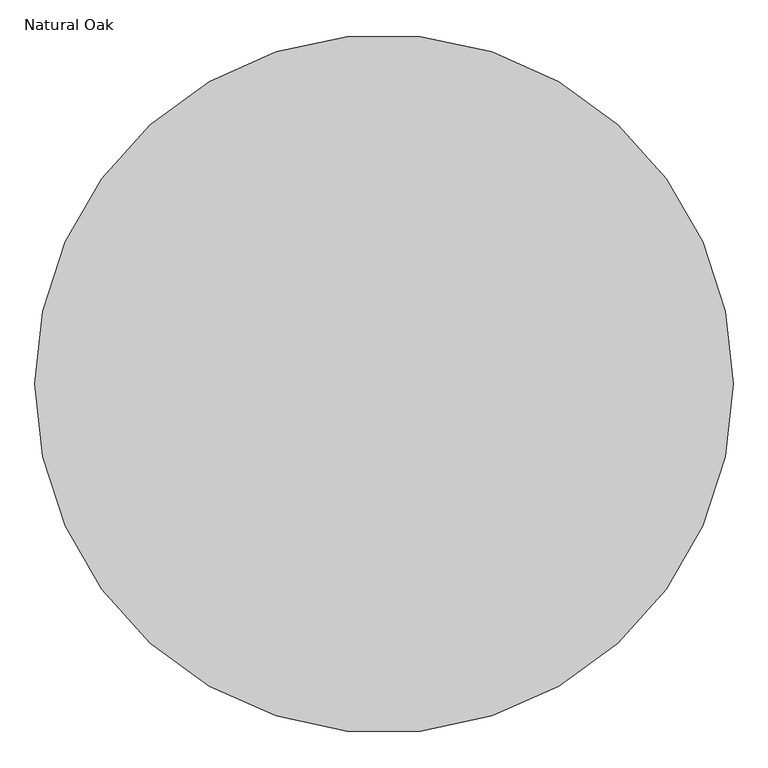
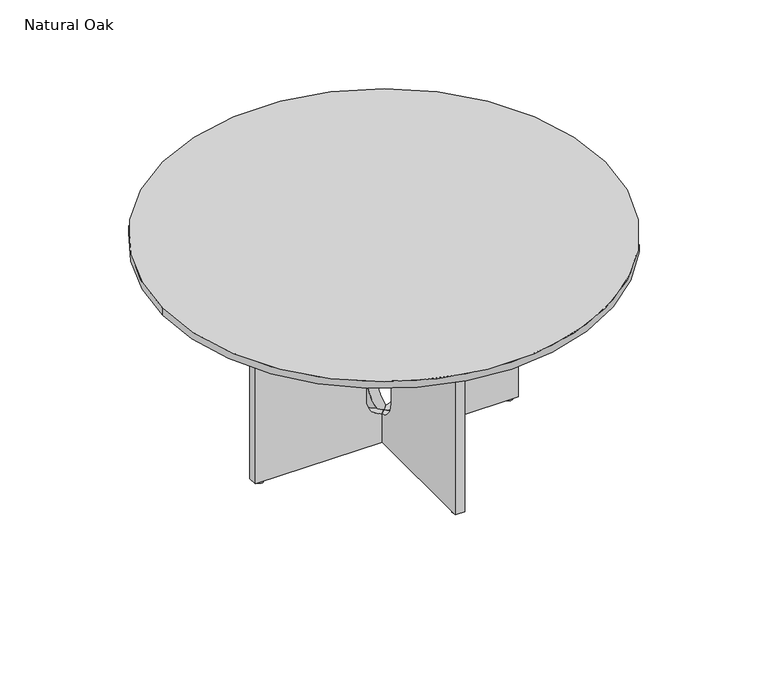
"""IFC4 building model written with IfcOpenShell, lengths in millimetres: furniture geometry, Audo Copenhagen - Androgyne - Dining Table Round - 150 : Natural Oak."""

from ifc_helpers import new_model, si_unit, point, frame, frame_2d, origin, origin_with_axes, origin_2d, place, context, project, spatial, polyline, circle_curve, ellipse_curve, trimmed, segment, composite_curve, outline, extrude, source, transform, mapped, element, save
from ifc_brep_helpers import plane_surface, revolved_surface, advanced_brep


def natural_oak_079cc0ae(model_context):
    return source(origin(), model_context, "Body", "SolidModel", [
        advanced_brep(
        [(70.0, -16.0, 177.0), (70.0, 16.0, 177.0), (16.0, 16.0, 108.8530999), (2.4e-06, 2.3e-06, 107.0), (16.0, -16.0, 108.8530999), (70.0, -16.0, 538.0), (70.0, 16.0, 538.0), (16.0, -16.0, 606.1469001), (2.4e-06, 2.3e-06, 608.0), (16.0, 16.0, 606.1469001), (445.0, -16.0, 708.0), (445.0, 16.0, 708.0), (16.0, 16.0, 708.0), (2.4e-06, 2.3e-06, 708.0), (16.0, -16.0, 708.0), (445.0, -16.0, 7.0), (16.0, -16.0, 7.0), (2.4e-06, 2.3e-06, 7.0), (16.0, 16.0, 7.0), (445.0, 16.0, 7.0)],
        [
            (0, 1),
            (1, 2, circle_curve(frame((0.0, 16.0, 177.0), z_axis=(0.0, 1.0, 0.0), x_axis=(-1.0, 0.0, 0.0)), 70.0)),
            (2, 3, ellipse_curve(frame((0.0, -2e-07, 177.0), z_axis=(-0.7071067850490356, 0.7071067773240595, 0.0), x_axis=(-0.7071067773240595, -0.7071067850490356, 0.0)), 98.9949499, 70.0)),
            (3, 4, ellipse_curve(frame((0.0, 4.7e-06, 177.0), z_axis=(-0.7071068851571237, -0.7071066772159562, 0.0), x_axis=(0.7071066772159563, -0.7071068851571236, 0.0)), 98.9949639, 70.0)),
            (4, 0, circle_curve(frame((0.0, -16.0, 177.0), z_axis=(0.0, -1.0, 0.0), x_axis=(-1.0, 0.0, 0.0)), 70.0)),
            (0, 5),
            (5, 6),
            (6, 1),
            (5, 7, circle_curve(frame((0.0, -16.0, 538.0), z_axis=(0.0, -1.0, 0.0), x_axis=(-1.0, 0.0, 0.0)), 70.0)),
            (7, 8, ellipse_curve(frame((0.0, 4.7e-06, 538.0), z_axis=(-0.7071068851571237, -0.7071066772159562, 0.0), x_axis=(0.7071066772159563, -0.7071068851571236, 0.0)), 98.9949639, 70.0)),
            (8, 9, ellipse_curve(frame((0.0, -2e-07, 538.0), z_axis=(-0.7071067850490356, 0.7071067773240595, 0.0), x_axis=(-0.7071067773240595, -0.7071067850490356, 0.0)), 98.9949499, 70.0)),
            (9, 6, circle_curve(frame((0.0, 16.0, 538.0), z_axis=(0.0, 1.0, 0.0), x_axis=(-1.0, 0.0, 0.0)), 70.0)),
            (10, 11),
            (11, 12),
            (12, 13),
            (13, 14),
            (14, 10),
            (15, 16),
            (16, 17),
            (17, 18),
            (18, 19),
            (19, 15),
            (14, 7),
            (4, 16),
            (15, 10),
            (11, 19),
            (18, 2),
            (9, 12),
            (13, 8),
            (3, 17),
        ],
        [
            revolved_surface(polyline([(-70.0, -70.00001586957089, 177.0), (-70.0, 70.0000252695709, 177.0)]), (0.0, 16.0, 177.0), (0.0, -1.0, 0.0)),
            plane_surface(frame((70.0, -16.0, 177.0), z_axis=(-1.0, 0.0, 0.0), x_axis=(0.0, 1.0, 0.0))),
            revolved_surface(polyline([(-70.0, -70.00001586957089, 538.0), (-70.0, 70.0000252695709, 538.0)]), (0.0, 16.0, 538.0), (0.0, -1.0, 0.0)),
            plane_surface(frame((445.0, 15.0, 708.0), z_axis=(0.0, 0.0, 1.0), x_axis=(0.0, 1.0, 0.0))),
            plane_surface(frame((445.0, 15.0, 7.0), z_axis=(0.0, 0.0, -1.0), x_axis=(0.0, -1.0, 0.0))),
            plane_surface(frame((16.0, -16.0, 708.0), z_axis=(0.0, -1.0, 0.0), x_axis=(0.0, 0.0, -1.0))),
            plane_surface(frame((445.0, 16.0, 708.0), z_axis=(0.0, 1.0, 0.0), x_axis=(0.0, 0.0, -1.0))),
            plane_surface(frame((445.0, -16.0, 708.0), z_axis=(1.0, 0.0, 0.0), x_axis=(0.0, 0.0, -1.0))),
            plane_surface(frame((2.4e-06, 2.3e-06, 708.0), z_axis=(-0.7071068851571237, -0.7071066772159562, 0.0), x_axis=(0.0, 0.0, -1.0))),
            plane_surface(frame((16.0, 16.0, 708.0), z_axis=(-0.7071067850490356, 0.7071067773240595, 0.0), x_axis=(0.0, 0.0, -1.0))),
        ],
        [
            (0, [[1, 2, 3, 4, 5]]),
            (1, [[-1, 6, 7, 8]]),
            (2, [[-7, 9, 10, 11, 12]]),
            (3, [[13, 14, 15, 16, 17]]),
            (4, [[18, 19, 20, 21, 22]]),
            (5, [[-17, 23, -9, -6, -5, 24, -18, 25]]),
            (6, [[-14, 26, -21, 27, -2, -8, -12, 28]]),
            (7, [[-13, -25, -22, -26]]),
            (8, [[-16, 29, -10, -23]]),
            (8, [[-19, -24, -4, 30]]),
            (9, [[-15, -28, -11, -29]]),
            (9, [[-20, -30, -3, -27]]),
        ],
    ),
        advanced_brep(
        [(-16.0, 70.0, 177.0), (16.0, 70.0, 177.0), (15.9999953, 70.0, 538.0), (-16.0, 70.0, 538.0), (-16.0000047, 16.0000002, 108.8530999), (-2.4e-06, 2.6e-06, 107.0), (15.9999953, 16.0000002, 108.8530999), (15.9999953, 16.0000002, 606.1469001), (-2.4e-06, 2.6e-06, 608.0), (-16.0000047, 16.0000002, 606.1469001), (-16.0000047, 445.0000002, 708.0), (-16.0000047, 16.0000002, 708.0), (-2.4e-06, 2.6e-06, 708.0), (15.9999953, 16.0000002, 708.0), (15.9999953, 445.0000002, 708.0), (-16.0000047, 445.0000002, 7.0), (15.9999953, 445.0000002, 7.0), (15.9999953, 16.0000002, 7.0), (-2.4e-06, 2.6e-06, 7.0), (-16.0000047, 16.0000002, 7.0)],
        [
            (0, 1),
            (1, 2),
            (2, 3),
            (3, 0),
            (0, 4, circle_curve(frame((-16.0000047, 0.0, 177.0), z_axis=(-1.0, 0.0, 0.0), x_axis=(0.0, -1.0, 0.0)), 70.0)),
            (4, 5, ellipse_curve(frame((2e-07, 0.0, 177.0), z_axis=(-0.7071066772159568, -0.707106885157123, 0.0), x_axis=(-0.7071068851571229, 0.7071066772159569, 0.0)), 98.9949639, 70.0)),
            (5, 6, ellipse_curve(frame((-5.1e-06, 0.0, 177.0), z_axis=(0.7071067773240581, -0.7071067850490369, 0.0), x_axis=(-0.7071067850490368, -0.7071067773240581, 0.0)), 98.9949499, 70.0)),
            (6, 1, circle_curve(frame((15.9999953, 0.0, 177.0), z_axis=(1.0, 0.0, 0.0), x_axis=(0.0, -1.0, 0.0)), 70.0)),
            (2, 7, circle_curve(frame((15.9999953, 0.0, 538.0), z_axis=(1.0, 0.0, 0.0), x_axis=(0.0, -1.0, 0.0)), 70.0)),
            (7, 8, ellipse_curve(frame((-5.1e-06, 0.0, 538.0), z_axis=(0.7071067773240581, -0.7071067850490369, 0.0), x_axis=(-0.7071067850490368, -0.7071067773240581, 0.0)), 98.9949499, 70.0)),
            (8, 9, ellipse_curve(frame((2e-07, 0.0, 538.0), z_axis=(-0.7071066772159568, -0.707106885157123, 0.0), x_axis=(-0.7071068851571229, 0.7071066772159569, 0.0)), 98.9949639, 70.0)),
            (9, 3, circle_curve(frame((-16.0000047, 0.0, 538.0), z_axis=(-1.0, 0.0, 0.0), x_axis=(0.0, -1.0, 0.0)), 70.0)),
            (10, 11),
            (11, 12),
            (12, 13),
            (13, 14),
            (14, 10),
            (15, 16),
            (16, 17),
            (17, 18),
            (18, 19),
            (19, 15),
            (10, 15),
            (19, 4),
            (9, 11),
            (13, 7),
            (6, 17),
            (16, 14),
            (8, 12),
            (18, 5),
        ],
        [
            plane_surface(frame((-16.0, 70.0, 538.0), z_axis=(0.0, -1.0, 0.0), x_axis=(1.0, 0.0, 0.0))),
            revolved_surface(polyline([(-70.00002036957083, -70.0, 177.0), (70.00002076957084, -70.0, 177.0)]), (16.0, 0.0, 177.0), (-1.0, 0.0, 0.0)),
            revolved_surface(polyline([(-70.00002036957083, -70.0, 538.0), (70.00002076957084, -70.0, 538.0)]), (16.0, 0.0, 538.0), (-1.0, 0.0, 0.0)),
            plane_surface(frame((-16.0000047, 444.0000002, 708.0), z_axis=(0.0, 0.0, 1.0), x_axis=(0.0, -1.0, 0.0))),
            plane_surface(frame((-16.0000047, 444.0000002, 7.0), z_axis=(0.0, 0.0, -1.0), x_axis=(0.0, 1.0, 0.0))),
            plane_surface(frame((-16.0000047, 445.0000002, 708.0), z_axis=(-1.0, 0.0, 0.0), x_axis=(0.0, 0.0, -1.0))),
            plane_surface(frame((15.9999953, 16.0000002, 708.0), z_axis=(1.0, 0.0, 0.0), x_axis=(0.0, 0.0, -1.0))),
            plane_surface(frame((15.9999953, 445.0000002, 708.0), z_axis=(0.0, 1.0, 0.0), x_axis=(0.0, 0.0, -1.0))),
            plane_surface(frame((-16.0000047, 16.0000002, 708.0), z_axis=(-0.7071066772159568, -0.707106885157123, 0.0), x_axis=(0.0, 0.0, -1.0))),
            plane_surface(frame((-2.4e-06, 2.6e-06, 708.0), z_axis=(0.7071067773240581, -0.7071067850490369, 0.0), x_axis=(0.0, 0.0, -1.0))),
        ],
        [
            (0, [[1, 2, 3, 4]]),
            (1, [[-1, 5, 6, 7, 8]]),
            (2, [[-3, 9, 10, 11, 12]]),
            (3, [[13, 14, 15, 16, 17]]),
            (4, [[18, 19, 20, 21, 22]]),
            (5, [[-13, 23, -22, 24, -5, -4, -12, 25]]),
            (6, [[-16, 26, -9, -2, -8, 27, -19, 28]]),
            (7, [[-17, -28, -18, -23]]),
            (8, [[-14, -25, -11, 29]]),
            (8, [[-21, 30, -6, -24]]),
            (9, [[-15, -29, -10, -26]]),
            (9, [[-20, -27, -7, -30]]),
        ],
    ),
        advanced_brep(
        [(-16.0, -70.0, 177.0), (16.0, -70.0, 177.0), (15.9999953, -16.0000002, 108.8530999), (-2.4e-06, -2.6e-06, 107.0), (-16.0000047, -16.0000002, 108.8530999), (-16.0000047, -70.0, 538.0), (16.0, -70.0, 538.0), (-16.0000047, -16.0000002, 606.1469001), (-2.4e-06, -2.6e-06, 608.0), (15.9999953, -16.0000002, 606.1469001), (-16.0000047, -445.0000002, 708.0), (15.9999953, -445.0000002, 708.0), (15.9999953, -16.0000002, 708.0), (-2.4e-06, -2.6e-06, 708.0), (-16.0000047, -16.0000002, 708.0), (-16.0000047, -445.0000002, 7.0), (-16.0000047, -16.0000002, 7.0), (-2.4e-06, -2.6e-06, 7.0), (15.9999953, -16.0000002, 7.0), (15.9999953, -445.0000002, 7.0)],
        [
            (0, 1),
            (1, 2, circle_curve(frame((15.9999953, 0.0, 177.0), z_axis=(1.0, 0.0, 0.0), x_axis=(0.0, 1.0, 0.0)), 70.0)),
            (2, 3, ellipse_curve(frame((-5.1e-06, 0.0, 177.0), z_axis=(0.7071067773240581, 0.7071067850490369, 0.0), x_axis=(-0.7071067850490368, 0.7071067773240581, 0.0)), 98.9949499, 70.0)),
            (3, 4, ellipse_curve(frame((2e-07, 0.0, 177.0), z_axis=(-0.7071066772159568, 0.707106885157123, 0.0), x_axis=(-0.707106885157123, -0.707106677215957, 0.0)), 98.9949639, 70.0)),
            (4, 0, circle_curve(frame((-16.0000047, 0.0, 177.0), z_axis=(-1.0, 0.0, 0.0), x_axis=(0.0, 1.0, 0.0)), 70.0)),
            (0, 5),
            (5, 6),
            (6, 1),
            (5, 7, circle_curve(frame((-16.0000047, 0.0, 538.0), z_axis=(-1.0, 0.0, 0.0), x_axis=(0.0, 1.0, 0.0)), 70.0)),
            (7, 8, ellipse_curve(frame((2e-07, 0.0, 538.0), z_axis=(-0.7071066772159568, 0.707106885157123, 0.0), x_axis=(-0.707106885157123, -0.707106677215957, 0.0)), 98.9949639, 70.0)),
            (8, 9, ellipse_curve(frame((-5.1e-06, 0.0, 538.0), z_axis=(0.7071067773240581, 0.7071067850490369, 0.0), x_axis=(-0.7071067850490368, 0.7071067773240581, 0.0)), 98.9949499, 70.0)),
            (9, 6, circle_curve(frame((15.9999953, 0.0, 538.0), z_axis=(1.0, 0.0, 0.0), x_axis=(0.0, 1.0, 0.0)), 70.0)),
            (10, 11),
            (11, 12),
            (12, 13),
            (13, 14),
            (14, 10),
            (15, 16),
            (16, 17),
            (17, 18),
            (18, 19),
            (19, 15),
            (14, 7),
            (4, 16),
            (15, 10),
            (11, 19),
            (18, 2),
            (9, 12),
            (13, 8),
            (3, 17),
        ],
        [
            revolved_surface(polyline([(-70.00002036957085, 70.0, 177.0), (70.00002076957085, 70.0, 177.0)]), (16.0, 0.0, 177.0), (-1.0, 0.0, 0.0)),
            plane_surface(frame((-16.0, -70.0, 177.0), z_axis=(0.0, 1.0, 0.0), x_axis=(1.0, 0.0, 0.0))),
            revolved_surface(polyline([(-70.00002036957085, 70.0, 538.0), (70.00002076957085, 70.0, 538.0)]), (16.0, 0.0, 538.0), (-1.0, 0.0, 0.0)),
            plane_surface(frame((14.9999953, -445.0000002, 708.0), z_axis=(0.0, 0.0, 1.0), x_axis=(1.0, 0.0, 0.0))),
            plane_surface(frame((14.9999953, -445.0000002, 7.0), z_axis=(0.0, 0.0, -1.0), x_axis=(-1.0, 0.0, 0.0))),
            plane_surface(frame((-16.0000047, -16.0000002, 708.0), z_axis=(-1.0, 0.0, 0.0), x_axis=(0.0, 0.0, -1.0))),
            plane_surface(frame((15.9999953, -445.0000002, 708.0), z_axis=(1.0, 0.0, 0.0), x_axis=(0.0, 0.0, -1.0))),
            plane_surface(frame((-16.0000047, -445.0000002, 708.0), z_axis=(0.0, -1.0, 0.0), x_axis=(0.0, 0.0, -1.0))),
            plane_surface(frame((-2.4e-06, -2.6e-06, 708.0), z_axis=(-0.7071066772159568, 0.707106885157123, 0.0), x_axis=(0.0, 0.0, -1.0))),
            plane_surface(frame((15.9999953, -16.0000002, 708.0), z_axis=(0.7071067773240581, 0.7071067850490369, 0.0), x_axis=(0.0, 0.0, -1.0))),
        ],
        [
            (0, [[1, 2, 3, 4, 5]]),
            (1, [[-1, 6, 7, 8]]),
            (2, [[-7, 9, 10, 11, 12]]),
            (3, [[13, 14, 15, 16, 17]]),
            (4, [[18, 19, 20, 21, 22]]),
            (5, [[-17, 23, -9, -6, -5, 24, -18, 25]]),
            (6, [[-14, 26, -21, 27, -2, -8, -12, 28]]),
            (7, [[-13, -25, -22, -26]]),
            (8, [[-16, 29, -10, -23]]),
            (8, [[-19, -24, -4, 30]]),
            (9, [[-15, -28, -11, -29]]),
            (9, [[-20, -30, -3, -27]]),
        ],
    ),
        extrude(outline(composite_curve([segment(trimmed(circle_curve(frame_2d((422.5015312, 0.0)), 12.5), [point((435.0015312, 0.0))], [point((410.0015312, 0.0))], False, "CARTESIAN"), True, "CONTINUOUS"), segment(trimmed(circle_curve(frame_2d((422.5015312, 0.0)), 12.5), [point((410.0015312, 0.0))], [point((435.0015312, 0.0))], False, "CARTESIAN"), True, "CONTINUOUS")], self_intersect=False)), origin_with_axes(), (0.0, 0.0, 1.0), 7.0),
        extrude(outline(composite_curve([segment(trimmed(circle_curve(frame_2d((4.7e-06, 422.501531)), 12.5), [point((4.7e-06, 435.001531))], [point((4.7e-06, 410.001531))], False, "CARTESIAN"), True, "CONTINUOUS"), segment(trimmed(circle_curve(frame_2d((4.7e-06, 422.501531)), 12.5), [point((4.7e-06, 410.001531))], [point((4.7e-06, 435.001531))], False, "CARTESIAN"), True, "CONTINUOUS")], self_intersect=False)), origin_with_axes(), (0.0, 0.0, 1.0), 7.0),
        extrude(outline(composite_curve([segment(trimmed(circle_curve(frame_2d((4.7e-06, -422.501531)), 12.5), [point((4.7e-06, -435.001531))], [point((4.7e-06, -410.001531))], False, "CARTESIAN"), True, "CONTINUOUS"), segment(trimmed(circle_curve(frame_2d((4.7e-06, -422.501531)), 12.5), [point((4.7e-06, -410.001531))], [point((4.7e-06, -435.001531))], False, "CARTESIAN"), True, "CONTINUOUS")], self_intersect=False)), origin_with_axes(), (0.0, 0.0, 1.0), 7.0),
        extrude(outline(composite_curve([segment(trimmed(circle_curve(frame_2d((-422.5015312, 0.0)), 12.5), [point((-435.0015312, 0.0))], [point((-410.0015312, 0.0))], False, "CARTESIAN"), True, "CONTINUOUS"), segment(trimmed(circle_curve(frame_2d((-422.5015312, 0.0)), 12.5), [point((-410.0015312, 0.0))], [point((-435.0015312, 0.0))], False, "CARTESIAN"), True, "CONTINUOUS")], self_intersect=False)), origin_with_axes(), (0.0, 0.0, 1.0), 7.0),
        advanced_brep(
        [(-445.0, -16.0, 708.0), (-16.0, -16.0, 708.0), (-2.4e-06, 2.3e-06, 708.0), (-16.0, 16.0, 708.0), (-445.0, 16.0, 708.0), (-445.0, -16.0, 7.0), (-445.0, 16.0, 7.0), (-16.0, 16.0, 7.0), (-2.4e-06, 2.3e-06, 7.0), (-16.0, -16.0, 7.0), (-16.0, -16.0, 108.8530999), (-70.0, -16.0, 177.0), (-70.0, -16.0, 538.0), (-16.0, -16.0, 606.1469001), (-16.0, 16.0, 606.1469001), (-70.0, 16.0, 538.0), (-70.0, 16.0, 177.0), (-16.0, 16.0, 108.8530999), (-2.4e-06, 2.3e-06, 107.0), (-2.4e-06, 2.3e-06, 608.0)],
        [
            (0, 1),
            (1, 2),
            (2, 3),
            (3, 4),
            (4, 0),
            (5, 6),
            (6, 7),
            (7, 8),
            (8, 9),
            (9, 5),
            (0, 5),
            (9, 10),
            (10, 11, circle_curve(frame((0.0, -16.0, 177.0), z_axis=(0.0, 1.0, 0.0), x_axis=(1.0, 0.0, 0.0)), 70.0)),
            (11, 12),
            (12, 13, circle_curve(frame((0.0, -16.0, 538.0), z_axis=(0.0, 1.0, 0.0), x_axis=(1.0, 0.0, 0.0)), 70.0)),
            (13, 1),
            (3, 14),
            (14, 15, circle_curve(frame((0.0, 16.0, 538.0), z_axis=(0.0, -1.0, 0.0), x_axis=(1.0, 0.0, 0.0)), 70.0)),
            (15, 16),
            (16, 17, circle_curve(frame((0.0, 16.0, 177.0), z_axis=(0.0, -1.0, 0.0), x_axis=(1.0, 0.0, 0.0)), 70.0)),
            (17, 7),
            (6, 4),
            (11, 16),
            (15, 12),
            (10, 18, ellipse_curve(frame((0.0, 4.7e-06, 177.0), z_axis=(0.7071068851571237, -0.7071066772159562, 0.0), x_axis=(-0.7071066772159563, -0.7071068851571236, 0.0)), 98.9949639, 70.0)),
            (18, 17, ellipse_curve(frame((0.0, -2e-07, 177.0), z_axis=(0.7071067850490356, 0.7071067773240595, 0.0), x_axis=(0.7071067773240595, -0.7071067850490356, 0.0)), 98.9949499, 70.0)),
            (14, 19, ellipse_curve(frame((0.0, -2e-07, 538.0), z_axis=(0.7071067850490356, 0.7071067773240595, 0.0), x_axis=(0.7071067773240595, -0.7071067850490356, 0.0)), 98.9949499, 70.0)),
            (19, 13, ellipse_curve(frame((0.0, 4.7e-06, 538.0), z_axis=(0.7071068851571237, -0.7071066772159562, 0.0), x_axis=(-0.7071066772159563, -0.7071068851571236, 0.0)), 98.9949639, 70.0)),
            (19, 2),
            (8, 18),
        ],
        [
            plane_surface(frame((-444.0, -16.0, 708.0), z_axis=(0.0, 0.0, 1.0), x_axis=(1.0, 0.0, 0.0))),
            plane_surface(frame((-444.0, -16.0, 7.0), z_axis=(0.0, 0.0, -1.0), x_axis=(-1.0, 0.0, 0.0))),
            plane_surface(frame((-445.0, -16.0, 708.0), z_axis=(0.0, -1.0, 0.0), x_axis=(0.0, 0.0, -1.0))),
            plane_surface(frame((-16.0, 16.0, 708.0), z_axis=(0.0, 1.0, 0.0), x_axis=(0.0, 0.0, -1.0))),
            plane_surface(frame((-445.0, 16.0, 708.0), z_axis=(-1.0, 0.0, 0.0), x_axis=(0.0, 0.0, -1.0))),
            plane_surface(frame((-70.0, -16.0, 538.0), z_axis=(1.0, 0.0, 0.0), x_axis=(0.0, 1.0, 0.0))),
            revolved_surface(polyline([(70.0, -70.00001586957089, 177.0), (70.0, 70.0000252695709, 177.0)]), (0.0, 16.0, 177.0), (0.0, -1.0, 0.0)),
            revolved_surface(polyline([(70.0, -70.00001586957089, 538.0), (70.0, 70.0000252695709, 538.0)]), (0.0, 16.0, 538.0), (0.0, -1.0, 0.0)),
            plane_surface(frame((-16.0, -16.0, 708.0), z_axis=(0.7071068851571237, -0.7071066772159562, 0.0), x_axis=(0.0, 0.0, -1.0))),
            plane_surface(frame((-2.4e-06, 2.3e-06, 708.0), z_axis=(0.7071067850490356, 0.7071067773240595, 0.0), x_axis=(0.0, 0.0, -1.0))),
        ],
        [
            (0, [[1, 2, 3, 4, 5]]),
            (1, [[6, 7, 8, 9, 10]]),
            (2, [[-1, 11, -10, 12, 13, 14, 15, 16]]),
            (3, [[-4, 17, 18, 19, 20, 21, -7, 22]]),
            (4, [[-5, -22, -6, -11]]),
            (5, [[23, -19, 24, -14]]),
            (6, [[-23, -13, 25, 26, -20]]),
            (7, [[-24, -18, 27, 28, -15]]),
            (8, [[-2, -16, -28, 29]]),
            (8, [[-9, 30, -25, -12]]),
            (9, [[-3, -29, -27, -17]]),
            (9, [[-8, -21, -26, -30]]),
        ],
    ),
        extrude(outline(composite_curve([segment(trimmed(circle_curve(origin_2d(), 750.0), [point((-750.0, 0.0))], [point((750.0, 0.0))], False, "CARTESIAN"), True, "CONTINUOUS"), segment(trimmed(circle_curve(origin_2d(), 750.0), [point((750.0, 0.0))], [point((-750.0, 0.0))], False, "CARTESIAN"), True, "CONTINUOUS")], self_intersect=False)), frame((0.0, 0.0, 708.0), z_axis=(0.0, 0.0, 1.0), x_axis=(1.0, 0.0, 0.0)), (0.0, 0.0, 1.0), 25.0),
    ])


if __name__ == "__main__":
    model = new_model("IFC4")
    model_context = context("Model", 3, world=origin())
    ifc_project = project(units=[si_unit("LENGTHUNIT", "METRE", prefix="MILLI")], contexts=[model_context])
    site = spatial("IfcSite", under=ifc_project)
    building = spatial("IfcBuilding", under=site)
    placement = place(None, origin())
    natural_oak_shape = natural_oak_079cc0ae(model_context)
    element("IfcFurniture", 1, ObjectType="Audo Copenhagen - Androgyne - Dining Table Round - 150 : Natural Oak", at=placement, inside=building, context=model_context, shape_type="MappedRepresentation", body=[
        mapped(natural_oak_shape, transform((0.0, 0.0, 0.0), x_axis=(1.0, 0.0, 0.0), y_axis=(0.0, 1.0, 0.0), z_axis=(0.0, 0.0, 1.0))),
    ])
    save(model, "model.ifc")
